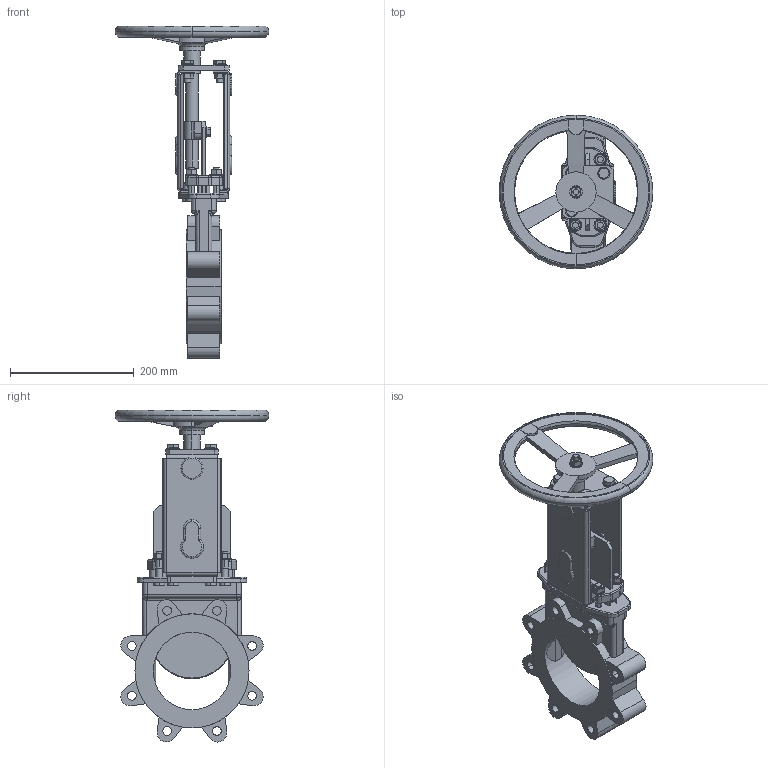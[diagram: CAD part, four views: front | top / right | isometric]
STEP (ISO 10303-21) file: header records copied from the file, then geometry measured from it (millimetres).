
FILE_DESCRIPTION(('STEP AP203'),'1');
FILE_NAME('G:/KONSTRUK/3-d block för CD/WB VALVE/HAND WHEEL/125/WB14-DN125-HW.stp','2012-11-30T12:59:42',(' '),(' '),'Spatial InterOp 3D',' ',' ');
FILE_SCHEMA(('CONFIG_CONTROL_DESIGN'));
Length unit declared in the file: millimetre
Products named in the file (7): 1; 2; 3; 4; 5; 6; 7
Bounding box: 248 x 248 x 535.76 mm (x, y, z)
Volume: 2361887.5 mm3; surface area: 472603.7 mm2
Topology: 7 solids, 15 shells, 1206 faces, 2903 edges, 1806 vertices
Faces by surface type: plane 511, cylinder 340, cone 287, torus 56, bspline 12
Entity records: 39693 total; most frequent: CARTESIAN_POINT 11112, DIRECTION 6063, ORIENTED_EDGE 5798, EDGE_CURVE 2899, AXIS2_PLACEMENT_3D 2373, VERTEX_POINT 1806, EDGE_LOOP 1343, LINE 1317
